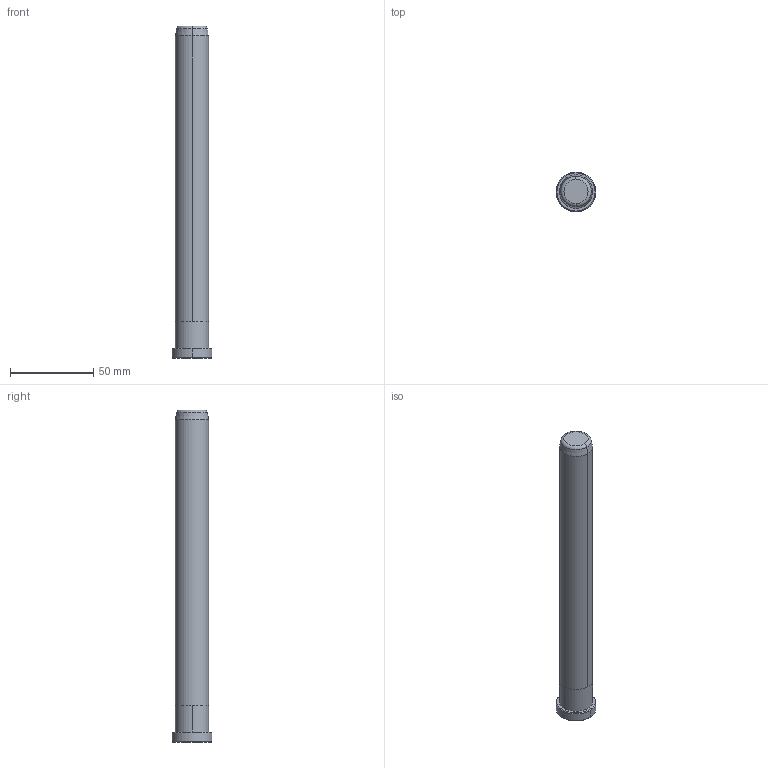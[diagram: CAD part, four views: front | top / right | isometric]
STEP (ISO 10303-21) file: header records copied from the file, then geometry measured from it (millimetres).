
FILE_DESCRIPTION((''),'2;1');
FILE_NAME('B80820200','2018-01-06T',('MANU'),(''),'PRO/ENGINEER BY PARAMETRIC TECHNOLOGY CORPORATION, 2012130','PRO/ENGINEER BY PARAMETRIC TECHNOLOGY CORPORATION, 2012130','');
FILE_SCHEMA(('CONFIG_CONTROL_DESIGN'));
Length unit declared in the file: millimetre
Products named in the file (1): B80820200
Bounding box: 24 x 24 x 200 mm (x, y, z)
Volume: 63429.7 mm3; surface area: 13392.3 mm2
Topology: 1 solids, 1 shells, 18 faces, 34 edges, 20 vertices
Faces by surface type: cone 6, cylinder 6, plane 4, torus 2
Entity records: 494 total; most frequent: DIRECTION 92, CARTESIAN_POINT 72, ORIENTED_EDGE 68, AXIS2_PLACEMENT_3D 40, EDGE_CURVE 34, CIRCLE 22, VERTEX_POINT 20, EDGE_LOOP 20
